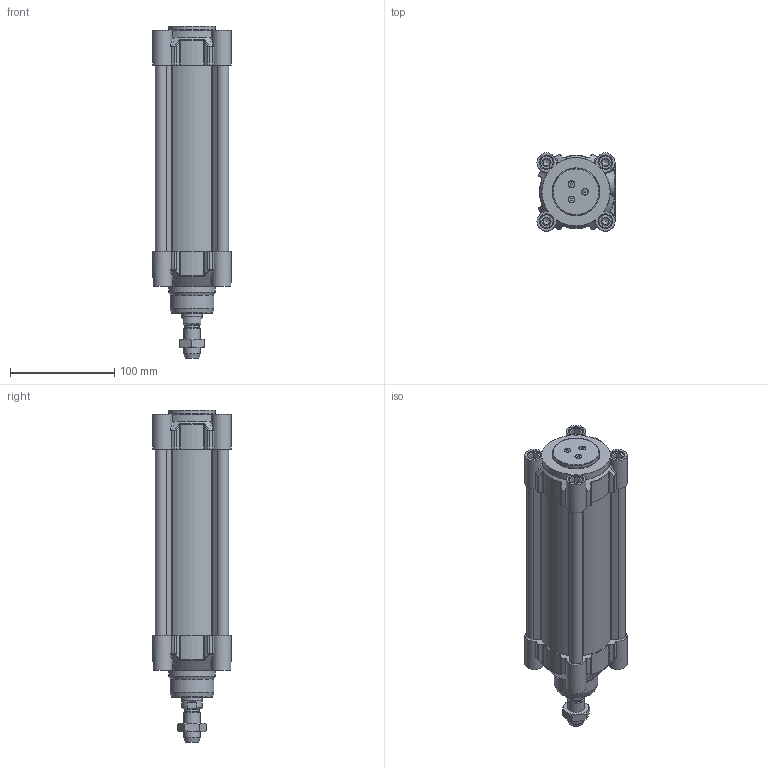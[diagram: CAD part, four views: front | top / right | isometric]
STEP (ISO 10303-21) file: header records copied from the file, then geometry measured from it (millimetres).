
FILE_DESCRIPTION(/* description */ ('Unknown'),/* implementation_level */ '2;1');
FILE_NAME(/* name */ 'HIFO 63_125',/* time_stamp */ '2024-08-14T13:57:21+02:00',/* author */ ('Unknown'),/* organization */ ('Unknown'),/* preprocessor_version */ 'ST-DEVELOPER v16.7',/* originating_system */ 'Solid Edge',/* authorisation */ 'Unknown');
FILE_SCHEMA (('AUTOMOTIVE_DESIGN {1 0 10303 214 3 1 1}'));
Length unit declared in the file: millimetre
Products named in the file (6): HIFO 63_125; Kit_2; Kit_1; Profilrohr 63_125; Kolbenstange 63_125; Mutter
Assembly tree (5 placements, depth 2):
  HIFO 63_125
    Kit_2
    Kit_1
    Profilrohr 63_125
    Kolbenstange 63_125
    Mutter
Bounding box: 75 x 75 x 319 mm (x, y, z)
Volume: 724254 mm3; surface area: 235556.8 mm2
Topology: 5 solids, 17 shells, 1141 faces, 2866 edges, 1828 vertices
Faces by surface type: cylinder 475, plane 368, cone 106, torus 86, bspline 62, sphere 44
Full cylindrical faces by diameter (mm): 3 x4, 3.4 x1, 3.5 x3, 6 x3, 6.647 x16, 8 x8, 8.3 x8, 9.9 x2, 10 x4, 12 x1, 13 x8, 13.3 x8, 13.5 x1, 14.376 x1, 14.94 x1, 14.95 x2, 16 x1, 19.5 x1, 20 x2, 20.5 x1, 20.8 x1, 20.847 x1, 24 x1, 30 x2, 42 x1, 45 x2, 63 x2
Entity records: 44140 total; most frequent: CARTESIAN_POINT 11422, ORIENTED_EDGE 5564, DIRECTION 5001, EDGE_CURVE 2782, AXIS2_PLACEMENT_3D 2008, VERTEX_POINT 1812, FACE_BOUND 1306, EDGE_LOOP 1298
